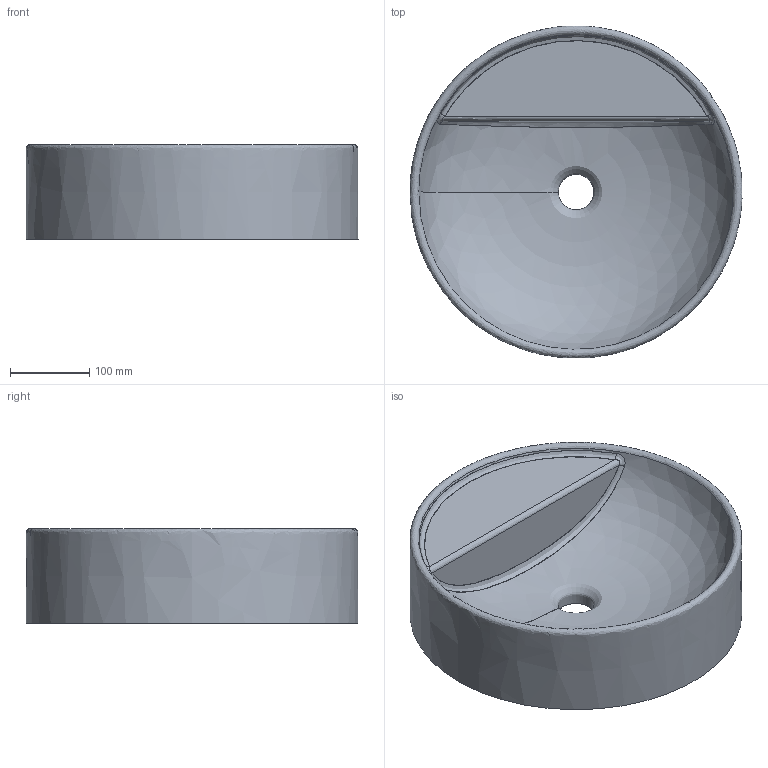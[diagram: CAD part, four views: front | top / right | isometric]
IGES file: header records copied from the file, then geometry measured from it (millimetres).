
Global section: file name: C:\Users\pc\Desktop\Ottobre notebook\Lavabo Mod 42\Modello 3d\Mod D42 h12CF.igs; native system: Rhinoceros ( Dec  8 2020 ); preprocessor: Trout Lake IGES 012 Dec  8 2020; date: 231112.104252; units: millimetre
Bounding box: 419.84 x 419.8 x 120 mm (x, y, z)
Surface area: 483409 mm2 (no closed solid volume)
Topology: 0 solids, 0 shells, 10 faces, 90 edges, 86 vertices
Faces by surface type: bspline 10
